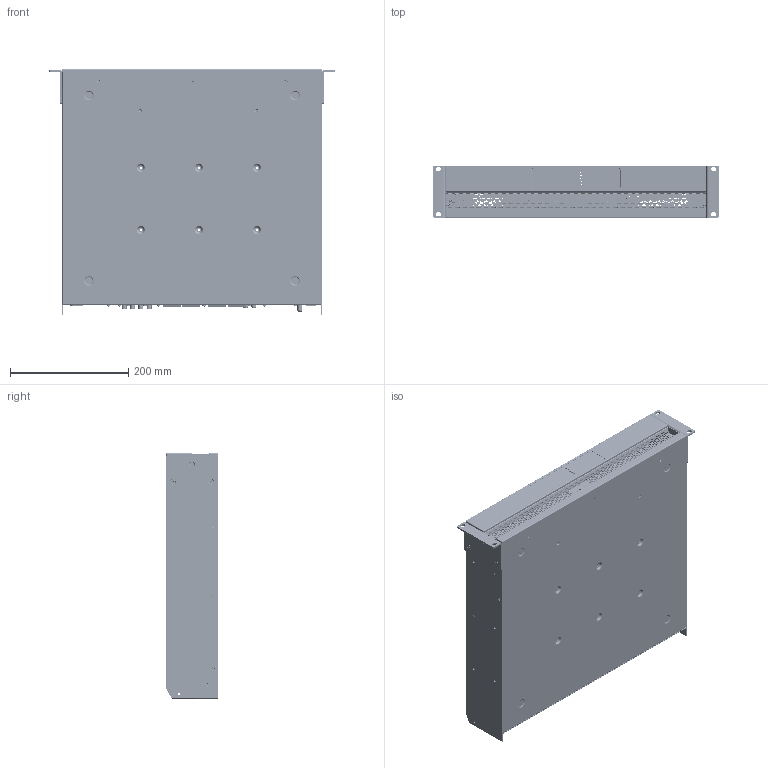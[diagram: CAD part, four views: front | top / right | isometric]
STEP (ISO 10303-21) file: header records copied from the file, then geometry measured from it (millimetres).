
FILE_DESCRIPTION (( 'STEP AP214' ), '1' );
FILE_NAME ('Sonance PowerZone Connect PRO 4000.4D.STEP', '2026-06-04T18:12:44', ( '' ), ( '' ), 'SwSTEP 2.0', 'SolidWorks 2025', '' );
FILE_SCHEMA (( 'AUTOMOTIVE_DESIGN' ));
Length unit declared in the file: millimetre
Products named in the file (1): Sonance PowerZone Connect PRO 4000.4D
Bounding box: 482.4 x 88.05 x 414.05 mm (x, y, z)
Volume: 775541.6 mm3; surface area: 1270181.1 mm2
Topology: 305 solids, 305 shells, 21190 faces, 57138 edges, 36789 vertices
Faces by surface type: plane 14489, cylinder 4515, cone 1412, torus 361, bspline 256, sphere 157
Entity records: 677387 total; most frequent: CARTESIAN_POINT 132804, ORIENTED_EDGE 113916, DIRECTION 108705, EDGE_CURVE 56958, LINE 43465, VECTOR 43465, VERTEX_POINT 36782, AXIS2_PLACEMENT_3D 32620
